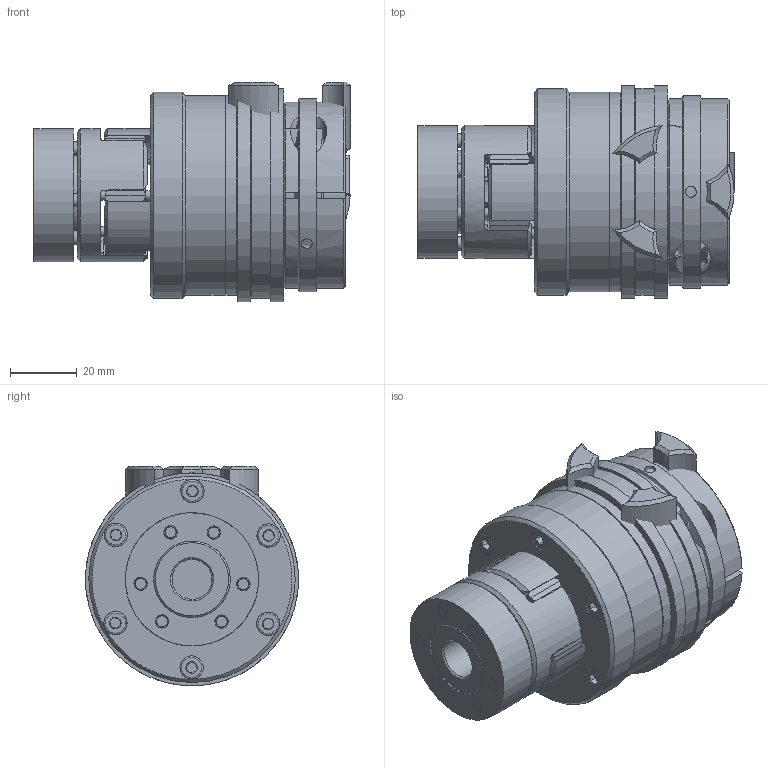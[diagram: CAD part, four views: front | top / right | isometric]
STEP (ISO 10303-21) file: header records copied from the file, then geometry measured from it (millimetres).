
FILE_DESCRIPTION( ( 'Unknown' ), '1' );
FILE_NAME( 'C:/Dokumente und Einstellungen/Sven/Desktop/hp kbk/E-AK/KBK EAK-19-95.stp', 'Unknown', ( 'Unknown' ), ( 'Unknown' ), 'XStep 1.0', 'Unknown', ' ' );
FILE_SCHEMA( ( 'automotive_design' ) );
Length unit declared in the file: millimetre
Products named in the file (17): Assem1; Assem2; ball_bearing_-_6005_0_01_1; ball_bearing_-_6005_0_02_1; ball_bearing_-_6005_0_03_1; Stellring 30_1; Druckring 30_1; a_25_1; Flansch L30_1; Elastomerflansch 19_1; Zahnkranz_19_1; ISO EN DIN 4762_M4x16_1; KBE3-19_Druckring_1; L-K-30 Grundkörper_1; Klemmnabe 30_1; schraube_iso_7380-m6x16-12_9_1; KBE 3 C - 19_Nabe
Bounding box: 95 x 64 x 66 mm (x, y, z)
Volume: 358577 mm3; surface area: 172241.1 mm2
Topology: 44 solids, 44 shells, 1094 faces, 2428 edges, 1518 vertices
Faces by surface type: plane 380, cylinder 330, cone 251, torus 83, bspline 50
Full cylindrical faces by diameter (mm): 2 x4, 3 x12, 3.242 x18, 3.3 x18, 3.5 x13, 4 x26, 4.2 x12, 4.5 x12, 4.917 x2, 6 x2, 6.4 x2, 7 x25, 8 x14, 10 x2, 11 x2, 12 x2, 18 x4, 22 x2, 23.9 x2, 24.925 x2, 25 x7, 30 x2, 32 x6, 34 x2, 38 x4, 40 x6, 40.3 x6, 47 x7, 52 x2, 58 x2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
Entity records: 12241 total; most frequent: CARTESIAN_POINT 3397, DIRECTION 1844, ORIENTED_EDGE 1534, AXIS2_PLACEMENT_3D 839, EDGE_CURVE 767, EDGE_LOOP 630, VERTEX_POINT 552, FACE_OUTER_BOUND 504
